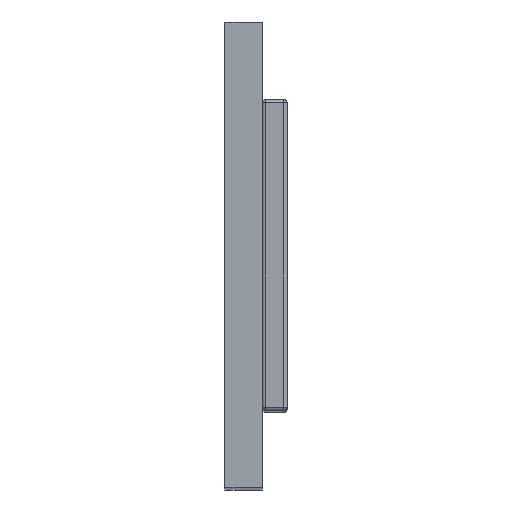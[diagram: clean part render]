
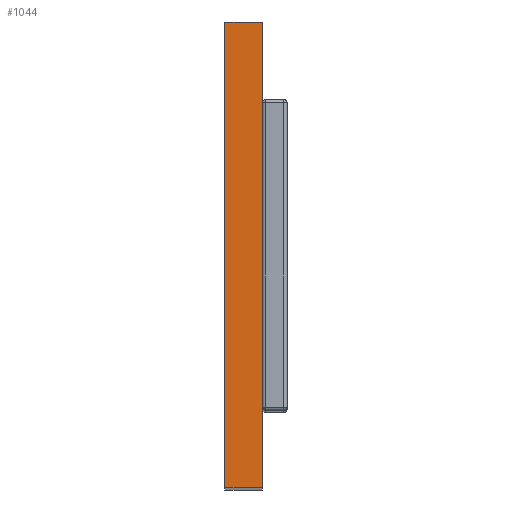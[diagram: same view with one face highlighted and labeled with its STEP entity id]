
A CAD part, top view. The second image highlights one B-rep face of the part: STEP entity #1044.
In plain terms, the highlighted planar face has unit normal (0, 0, 1).
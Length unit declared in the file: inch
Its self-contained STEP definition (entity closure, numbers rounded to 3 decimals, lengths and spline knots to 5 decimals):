
#38 = CARTESIAN_POINT ( 'NONE',  ( 0., 2.95276, 7.55906 ) ) ;
#44 = VECTOR ( 'NONE', #2155, 39.37008 ) ;
#220 = DIRECTION ( 'NONE',  ( 0., -1., 0. ) ) ;
#513 = VERTEX_POINT ( 'NONE', #2459 ) ;
#567 = DIRECTION ( 'NONE',  ( 0., -1., 0. ) ) ;
#804 = LINE ( 'NONE', #945, #1731 ) ;
#917 = ORIENTED_EDGE ( 'NONE', *, *, #3393, .T. ) ;
#945 = CARTESIAN_POINT ( 'NONE',  ( 0., 0., 7.55906 ) ) ;
#1044 = ADVANCED_FACE ( 'NONE', ( #4363 ), #1779, .F. ) ;
#1078 = LINE ( 'NONE', #1768, #44 ) ;
#1315 = VECTOR ( 'NONE', #4039, 39.37008 ) ;
#1731 = VECTOR ( 'NONE', #567, 39.37008 ) ;
#1768 = CARTESIAN_POINT ( 'NONE',  ( 0., 0., 7.55906 ) ) ;
#1779 = PLANE ( 'NONE',  #2263 ) ;
#1949 = EDGE_CURVE ( 'NONE', #513, #2552, #4343, .T. ) ;
#2155 = DIRECTION ( 'NONE',  ( 1., 0., 0. ) ) ;
#2156 = CARTESIAN_POINT ( 'NONE',  ( 0.23622, 0., 7.55906 ) ) ;
#2160 = VERTEX_POINT ( 'NONE', #38 ) ;
#2201 = DIRECTION ( 'NONE',  ( 0., 0., -1. ) ) ;
#2263 = AXIS2_PLACEMENT_3D ( 'NONE', #4513, #2201, #4162 ) ;
#2459 = CARTESIAN_POINT ( 'NONE',  ( 0.23622, 2.95276, 7.55906 ) ) ;
#2552 = VERTEX_POINT ( 'NONE', #2156 ) ;
#3077 = EDGE_LOOP ( 'NONE', ( #917, #3969, #3341, #3111 ) ) ;
#3111 = ORIENTED_EDGE ( 'NONE', *, *, #4189, .T. ) ;
#3226 = CARTESIAN_POINT ( 'NONE',  ( 0., 2.95276, 7.55906 ) ) ;
#3264 = LINE ( 'NONE', #3226, #1315 ) ;
#3341 = ORIENTED_EDGE ( 'NONE', *, *, #4501, .F. ) ;
#3393 = EDGE_CURVE ( 'NONE', #4151, #2552, #1078, .T. ) ;
#3674 = CARTESIAN_POINT ( 'NONE',  ( 0., 0., 7.55906 ) ) ;
#3969 = ORIENTED_EDGE ( 'NONE', *, *, #1949, .F. ) ;
#4039 = DIRECTION ( 'NONE',  ( 1., 0., 0. ) ) ;
#4151 = VERTEX_POINT ( 'NONE', #3674 ) ;
#4162 = DIRECTION ( 'NONE',  ( -1., 0., 0. ) ) ;
#4189 = EDGE_CURVE ( 'NONE', #2160, #4151, #804, .T. ) ;
#4343 = LINE ( 'NONE', #4949, #4716 ) ;
#4363 = FACE_OUTER_BOUND ( 'NONE', #3077, .T. ) ;
#4501 = EDGE_CURVE ( 'NONE', #2160, #513, #3264, .T. ) ;
#4513 = CARTESIAN_POINT ( 'NONE',  ( 0., 0., 7.55906 ) ) ;
#4716 = VECTOR ( 'NONE', #220, 39.37008 ) ;
#4949 = CARTESIAN_POINT ( 'NONE',  ( 0.23622, 0., 7.55906 ) ) ;
